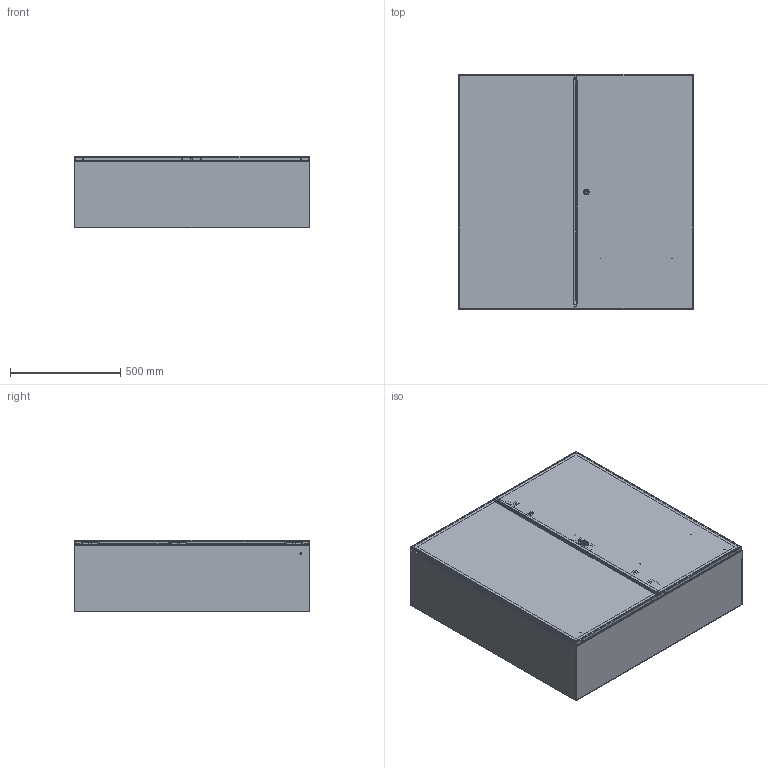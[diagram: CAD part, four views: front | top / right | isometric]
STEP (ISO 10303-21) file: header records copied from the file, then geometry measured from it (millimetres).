
FILE_DESCRIPTION (( 'STEP AP203' ), '1' );
FILE_NAME ('29447.step', '2015-03-30T07:56:49', ( '' ), ( '' ), 'SwSTEP 2.0', 'SolidWorks 2010', '' );
FILE_SCHEMA (( 'CONFIG_CONTROL_DESIGN' ));
Length unit declared in the file: inch
Products named in the file (36): 89117750_default; 23271001_After Weld; 89117755_assy; 89117754_weldment; 89117753_Welded corner; 89117756; 89117759_assy; 89117758_weldment; 89117757_Welded corner; 99401225; 87931362_87931362; 87408407_Unlocked; 64102001_Latch Open; 87540678; 64210001; 64202001; 64208001; 64205001; 87541995; 87541994_Installed Height; 64206004; 64207001; 64103001; 99411834; 89117760; 89076399; 89076193; 89056623; 87543027; 87929507; 87929767; 87929769_Installed on Pin; 29447; 89117752; 89117751_default; 89117749_default
Assembly tree (68 placements, depth 5):
  29447
    89076399  x6
      89076193
      89056623
    87543027  x6
    89117752
      89117750_default
      23271001_After Weld  x8
      99401225  x2
      89117749_default
      89117751_default
    87929507  x6
      87929767
      87929769_Installed on Pin
    89117759_assy
      87408407_Unlocked
        64103001  x4
        64207001  x2
        64102001_Latch Open
          87541994_Installed Height
          64202001
          87541995
          64205001  x2
          87540678
          64210001
          64208001
        64206004  x2
        99411834  x2
      89117760
      89117758_weldment
        89117757_Welded corner
        99401225
        87931362_87931362  x2
    89117755_assy
      89117756
      89117754_weldment
        89117753_Welded corner
        99401225
Bounding box: 1066.8 x 1066.8 x 325.5 mm (x, y, z)
Volume: 7431005.8 mm3; surface area: 7958403.8 mm2
Topology: 70 solids, 70 shells, 4459 faces, 11487 edges, 7212 vertices
Faces by surface type: plane 2018, cylinder 1347, bspline 696, torus 239, cone 111, sphere 48
Entity records: 84387 total; most frequent: CARTESIAN_POINT 29133, ORIENTED_EDGE 11084, DIRECTION 9696, EDGE_CURVE 5542, VERTEX_POINT 3497, AXIS2_PLACEMENT_3D 3262, VECTOR 3172, LINE 3172
